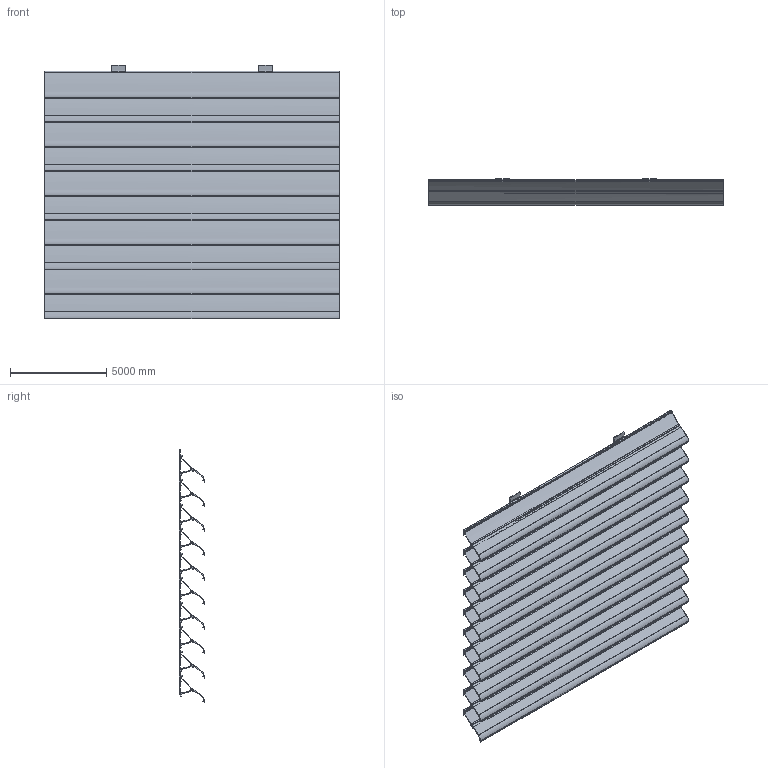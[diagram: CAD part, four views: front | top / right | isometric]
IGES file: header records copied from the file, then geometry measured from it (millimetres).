
Global section: file name: 3D_L_050WS; native system: AutoCAD 2023 - English; preprocessor: Autodesk Translation Framework DWG producer (atf_dwg_producer); organization: unknown; date: 20260202.112201; units: inch
Bounding box: 15240 x 1333.5 x 13127.05 mm (x, y, z)
Volume: 15097295075.3 mm3; surface area: 805715060.4 mm2
Topology: 30 solids, 30 shells, 1600 faces, 4620 edges, 3080 vertices
Faces by surface type: bspline 1600
